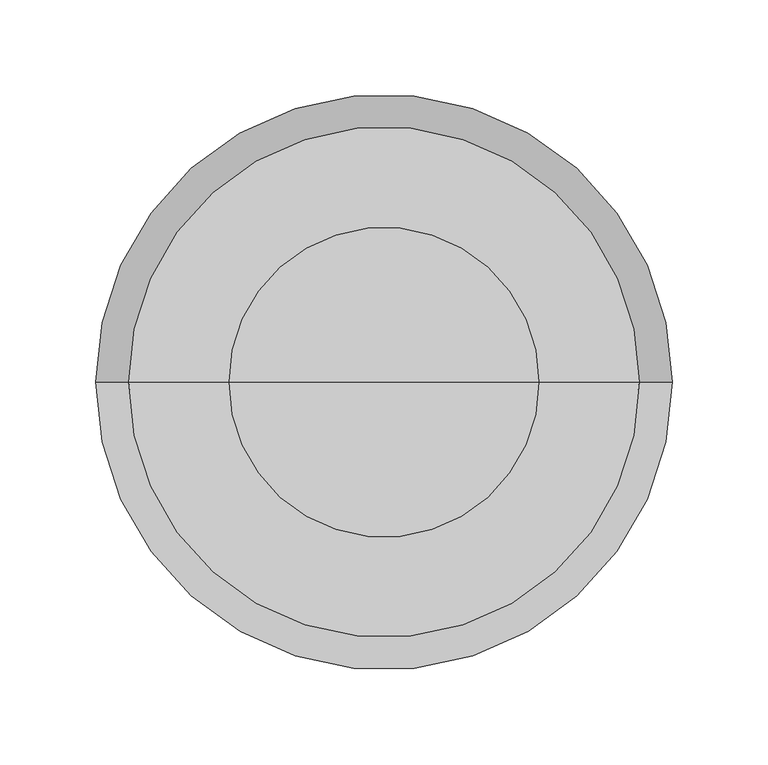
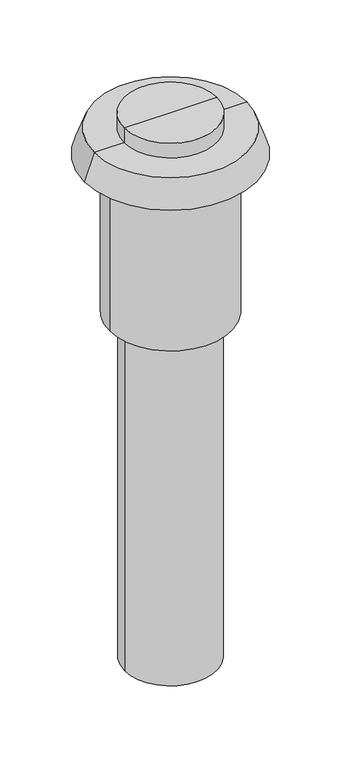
"""IFC4 building model written with IfcOpenShell, lengths in millimetres: air terminal geometry, NLRS_57_AIR_WPB_roof ventilation terminals_M&G : EPS Black, ø160 - L=1000mm."""

from ifc_helpers import new_model, si_unit, frame, origin, place, context, project, spatial, polyline, circle_curve, source, transform, mapped, element, save
from ifc_brep_helpers import plane_surface, cylinder_surface, revolved_surface, advanced_brep


def air_terminal_f5bad940(model_context):
    return source(origin(), model_context, "Body", "AdvancedBrep", [
        advanced_brep(
        [(80.7, 0.0, 365.0), (-80.7, 0.0, 365.0), (0.0, 0.0, 365.0), (80.7, 0.0, 338.0), (-80.7, 0.0, 338.0), (0.0, 0.0, 338.0)],
        [
            (0, 1, circle_curve(frame((0.0, 0.0, 365.0), z_axis=(0.0, 0.0, 1.0), x_axis=(-1.0, 0.0, 0.0)), 80.7)),
            (1, 2),
            (2, 0),
            (1, 0, circle_curve(frame((0.0, 0.0, 365.0), z_axis=(0.0, 0.0, 1.0), x_axis=(-1.0, 0.0, 0.0)), 80.7)),
            (3, 4, circle_curve(frame((0.0, 0.0, 338.0), z_axis=(0.0, 0.0, 1.0), x_axis=(-1.0, 0.0, 0.0)), 80.7)),
            (4, 1),
            (0, 3),
            (4, 3, circle_curve(frame((0.0, 0.0, 338.0), z_axis=(0.0, 0.0, 1.0), x_axis=(-1.0, 0.0, 0.0)), 80.7)),
            (5, 4),
            (3, 5),
        ],
        [
            plane_surface(frame((0.0, 0.0, 365.0), z_axis=(0.0, 0.0, 1.0), x_axis=(-1.0, 0.0, 0.0))),
            cylinder_surface(frame((0.0, 0.0, 2068.3150031), z_axis=(0.0, 0.0, -1.0), x_axis=(-1.0, 0.0, 0.0)), 80.7),
            plane_surface(frame((0.0, 0.0, 338.0), z_axis=(0.0, 0.0, -1.0), x_axis=(-1.0, 0.0, 0.0))),
        ],
        [
            (0, [[1, 2, 3]]),
            (0, [[4, -3, -2]]),
            (1, [[5, 6, -1, 7]]),
            (1, [[8, -7, -4, -6]]),
            (2, [[9, -5, 10]]),
            (2, [[-10, -8, -9]]),
        ],
    ),
        advanced_brep(
        [(106.0, 0.0, 290.0), (-106.0, 0.0, 290.0), (0.0, 0.0, 290.0), (106.0, 0.0, 0.0), (-106.0, 0.0, 0.0), (0.0, 0.0, 0.0)],
        [
            (0, 1, circle_curve(frame((0.0, 0.0, 290.0), z_axis=(0.0, 0.0, 1.0), x_axis=(-1.0, 0.0, 0.0)), 106.0)),
            (1, 2),
            (2, 0),
            (1, 0, circle_curve(frame((0.0, 0.0, 290.0), z_axis=(0.0, 0.0, 1.0), x_axis=(-1.0, 0.0, 0.0)), 106.0)),
            (3, 4, circle_curve(frame((0.0, 0.0, 0.0), z_axis=(0.0, 0.0, 1.0), x_axis=(-1.0, 0.0, 0.0)), 106.0)),
            (4, 1),
            (0, 3),
            (4, 3, circle_curve(frame((0.0, 0.0, 0.0), z_axis=(0.0, 0.0, 1.0), x_axis=(-1.0, 0.0, 0.0)), 106.0)),
            (5, 4),
            (3, 5),
        ],
        [
            plane_surface(frame((0.0, 0.0, 290.0), z_axis=(0.0, 0.0, 1.0), x_axis=(-1.0, 0.0, 0.0))),
            cylinder_surface(frame((0.0, 0.0, 2112.3150031), z_axis=(0.0, 0.0, -1.0), x_axis=(-1.0, 0.0, 0.0)), 106.0),
            plane_surface(frame((0.0, 0.0, 0.0), z_axis=(0.0, 0.0, -1.0), x_axis=(-1.0, 0.0, 0.0))),
        ],
        [
            (0, [[1, 2, 3]]),
            (0, [[4, -3, -2]]),
            (1, [[5, 6, -1, 7]]),
            (1, [[8, -7, -4, -6]]),
            (2, [[9, -5, 10]]),
            (2, [[-10, -8, -9]]),
        ],
    ),
        advanced_brep(
        [(133.0, 0.0, 338.0), (-133.0, 0.0, 338.0), (0.0, 0.0, 338.0), (150.0, 0.0, 290.0), (-150.0, 0.0, 290.0), (0.0, 0.0, 290.0)],
        [
            (0, 1, circle_curve(frame((0.0, 0.0, 338.0), z_axis=(0.0, 0.0, 1.0), x_axis=(-1.0, 0.0, 0.0)), 133.0)),
            (1, 2),
            (2, 0),
            (1, 0, circle_curve(frame((0.0, 0.0, 338.0), z_axis=(0.0, 0.0, 1.0), x_axis=(-1.0, 0.0, 0.0)), 133.0)),
            (3, 4, circle_curve(frame((0.0, 0.0, 290.0), z_axis=(0.0, 0.0, 1.0), x_axis=(-1.0, 0.0, 0.0)), 150.0)),
            (4, 1),
            (0, 3),
            (4, 3, circle_curve(frame((0.0, 0.0, 290.0), z_axis=(0.0, 0.0, 1.0), x_axis=(-1.0, 0.0, 0.0)), 150.0)),
            (5, 4),
            (3, 5),
        ],
        [
            plane_surface(frame((0.0, 0.0, 338.0), z_axis=(0.0, 0.0, 1.0), x_axis=(-1.0, 0.0, 0.0))),
            revolved_surface(polyline([(-133.0, 0.0, 338.0), (-150.0, 0.0, 290.0)]), (0.0, 0.0, 2058.3150031), (0.0, 0.0, -1.0)),
            plane_surface(frame((0.0, 0.0, 290.0), z_axis=(0.0, 0.0, -1.0), x_axis=(-1.0, 0.0, 0.0))),
        ],
        [
            (0, [[1, 2, 3]]),
            (0, [[4, -3, -2]]),
            (1, [[5, 6, -1, 7]]),
            (1, [[8, -7, -4, -6]]),
            (2, [[9, -5, 10]]),
            (2, [[-10, -8, -9]]),
        ],
    ),
        advanced_brep(
        [(80.0, 0.0, -635.0), (-80.0, 0.0, -635.0), (-80.0, 0.0, 0.0), (80.0, 0.0, 0.0), (0.0, 0.0, -635.0), (0.0, 0.0, 0.0)],
        [
            (0, 1, circle_curve(frame((0.0, 0.0, -635.0), z_axis=(0.0, 0.0, 1.0), x_axis=(-1.0, 0.0, 0.0)), 80.0)),
            (1, 2),
            (2, 3, circle_curve(frame((0.0, 0.0, 0.0), z_axis=(0.0, 0.0, -1.0), x_axis=(-1.0, 0.0, 0.0)), 80.0)),
            (3, 0),
            (1, 0, circle_curve(frame((0.0, 0.0, -635.0), z_axis=(0.0, 0.0, 1.0), x_axis=(-1.0, 0.0, 0.0)), 80.0)),
            (3, 2, circle_curve(frame((0.0, 0.0, 0.0), z_axis=(0.0, 0.0, -1.0), x_axis=(-1.0, 0.0, 0.0)), 80.0)),
            (4, 1),
            (0, 4),
            (2, 5),
            (5, 3),
        ],
        [
            cylinder_surface(frame((0.0, 0.0, 2058.3150031), z_axis=(0.0, 0.0, -1.0), x_axis=(-1.0, 0.0, 0.0)), 80.0),
            plane_surface(frame((0.0, 0.0, -635.0), z_axis=(0.0, 0.0, -1.0), x_axis=(-1.0, 0.0, 0.0))),
            plane_surface(frame((0.0, 0.0, 0.0), z_axis=(0.0, 0.0, 1.0), x_axis=(-1.0, 0.0, 0.0))),
        ],
        [
            (0, [[1, 2, 3, 4]]),
            (0, [[5, -4, 6, -2]]),
            (1, [[7, -1, 8]]),
            (1, [[-8, -5, -7]]),
            (2, [[-3, 9, 10]]),
            (2, [[-6, -10, -9]]),
        ],
    ),
    ])


if __name__ == "__main__":
    model = new_model("IFC4")
    model_context = context("Model", 3, world=origin())
    ifc_project = project(units=[si_unit("LENGTHUNIT", "METRE", prefix="MILLI")], contexts=[model_context])
    site = spatial("IfcSite", under=ifc_project)
    building = spatial("IfcBuilding", under=site)
    placement = place(None, origin())
    air_terminal_shape = air_terminal_f5bad940(model_context)
    element("IfcAirTerminal", 1, ObjectType="NLRS_57_AIR_WPB_roof ventilation terminals_M&G : EPS Black, ø160 - L=1000mm", at=placement, inside=building, context=model_context, shape_type="MappedRepresentation", body=[
        mapped(air_terminal_shape, transform((0.0, 0.0, 0.0), x_axis=(1.0, 0.0, 0.0), y_axis=(0.0, 1.0, 0.0), z_axis=(0.0, 0.0, 1.0))),
    ])
    save(model, "model.ifc")
